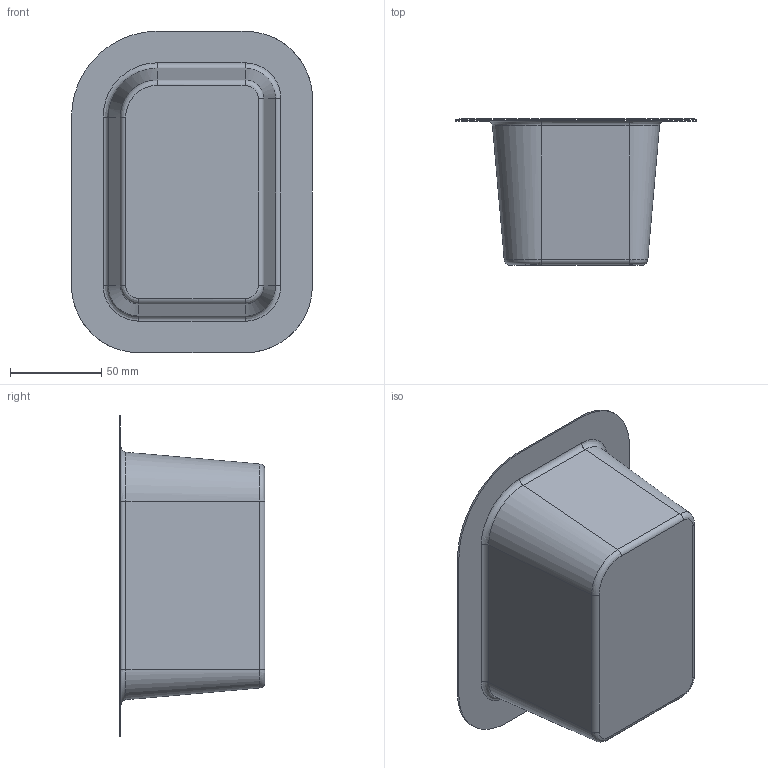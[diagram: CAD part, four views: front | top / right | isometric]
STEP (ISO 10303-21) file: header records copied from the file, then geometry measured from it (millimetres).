
FILE_DESCRIPTION(('CATIA V5 STEP Exchange'),'2;1');
FILE_NAME('C:\_Andres\UNIVERSIDAD\IQS\ASIGNATURAS\DAO\Controles\1617\c3\2inicio\Pascual_Sarrias_control3_v22.stp','2017-02-17T14:22:10+00:00',('none'),('none'),'CATIA Version 5-6 Release 2014 SP1 HF18','CATIA V5 STEP AP203','none');
FILE_SCHEMA(('CONFIG_CONTROL_DESIGN'));
Length unit declared in the file: millimetre
Products named in the file (1): Pascual_Sarrias_control3_v22
Bounding box: 131.77 x 79.7 x 175.77 mm (x, y, z)
Surface area: 71647.4 mm2 (no closed solid volume)
Topology: 0 solids, 2 shells, 27 faces, 80 edges, 57 vertices
Faces by surface type: bspline 16, cylinder 8, plane 3
Entity records: 1925 total; most frequent: CARTESIAN_POINT 1329, ORIENTED_EDGE 128, EDGE_CURVE 72, B_SPLINE_CURVE_WITH_KNOTS 54, DIRECTION 50, VERTEX_POINT 48, EDGE_LOOP 28, ADVANCED_FACE 27
